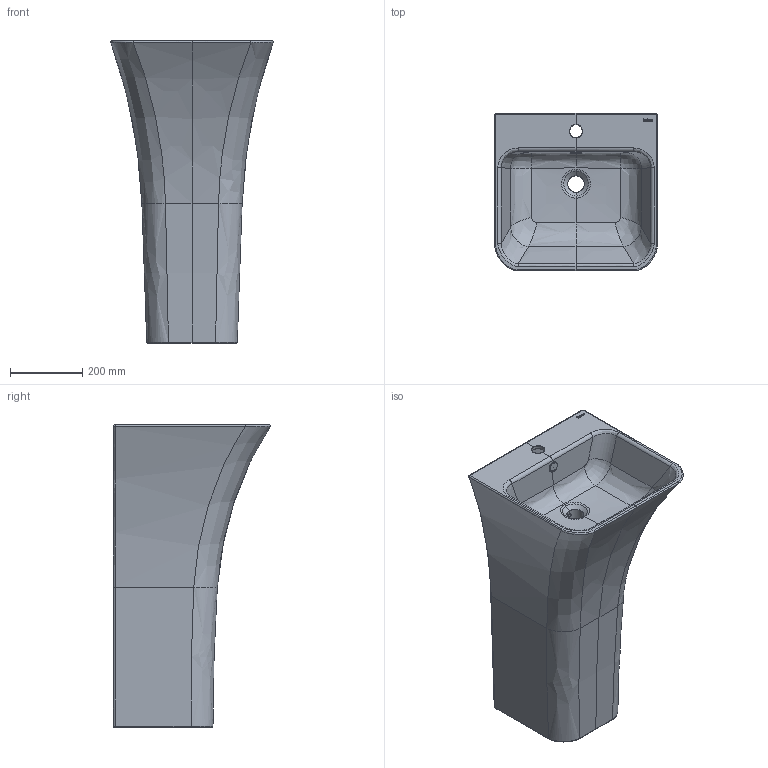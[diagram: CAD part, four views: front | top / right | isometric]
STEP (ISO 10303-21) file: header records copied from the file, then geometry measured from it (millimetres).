
FILE_DESCRIPTION(/* description */ (''),/* implementation_level */ '2;1');
FILE_NAME(/* name */ '4166_CARTES',/* time_stamp */ '2022-06-28T10:41:30+02:00',/* author */ (''),/* organization */ (''),/* preprocessor_version */ 'ST-DEVELOPER v16.5',/* originating_system */ '',/* authorisation */ '');
FILE_SCHEMA (('CONFIG_CONTROL_DESIGN'));
Length unit declared in the file: millimetre
Products named in the file (1): Document
Bounding box: 449.12 x 434.2 x 835.3 mm (x, y, z)
Volume: 11160170.8 mm3; surface area: 2163600 mm2
Topology: 8 solids, 8 shells, 521 faces, 1224 edges, 704 vertices
Faces by surface type: bspline 345, cylinder 88, plane 88
Full cylindrical faces by diameter (mm): 18 x4, 22 x1, 35 x1
Entity records: 36614 total; most frequent: CARTESIAN_POINT 29515, ORIENTED_EDGE 2440, EDGE_CURVE 1220, VERTEX_POINT 704, EDGE_LOOP 532, ADVANCED_FACE 521, FACE_OUTER_BOUND 521, B_SPLINE_CURVE_WITH_KNOTS 426
